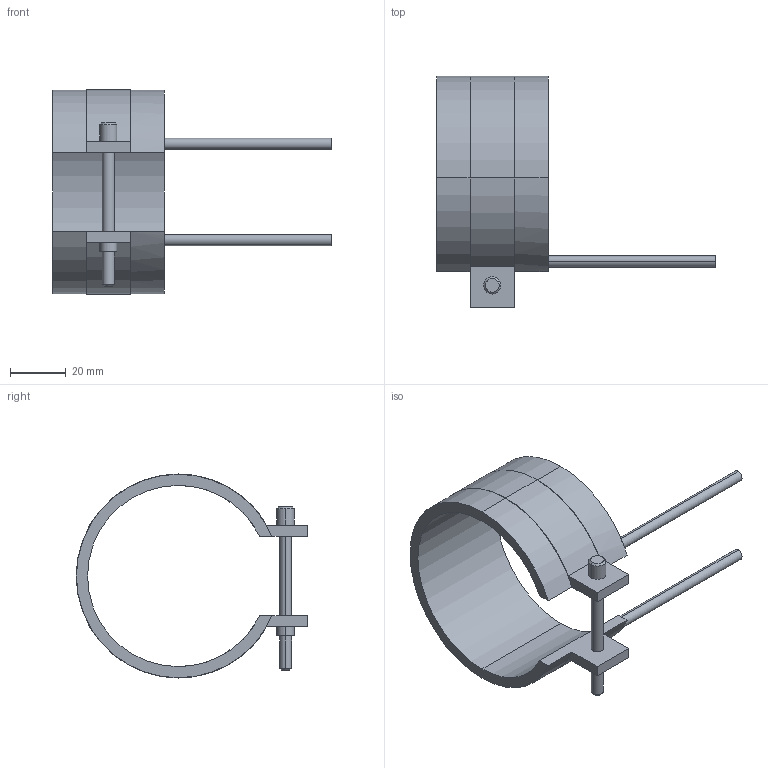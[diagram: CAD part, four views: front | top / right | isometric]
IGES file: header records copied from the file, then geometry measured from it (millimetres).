
Start section: START RECORD GO HERE.
Global section: file name: 14065040.igs; native system: DASSAULT SYSTEMES CATIA V5 R20 - www.3ds.com; preprocessor: CATIA Version 5 Release 20 ; author: Utente; organization: NB04-ASUS; date: 20210403.093921; units: millimetre
Bounding box: 100 x 83.1 x 73.2 mm (x, y, z)
Surface area: 20190.5 mm2 (no closed solid volume)
Topology: 0 solids, 0 shells, 45 faces, 232 edges, 232 vertices
Faces by surface type: revolution 28, plane 17
